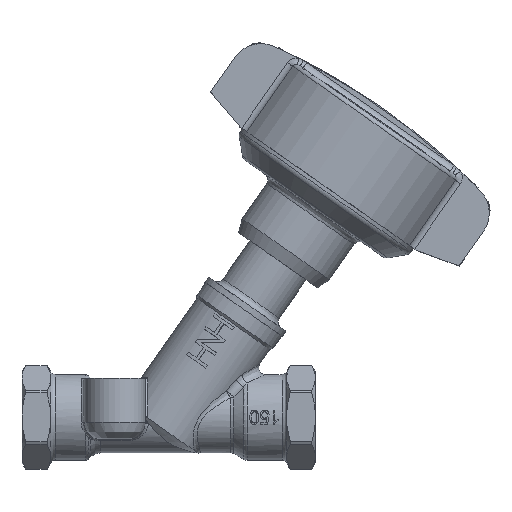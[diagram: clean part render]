
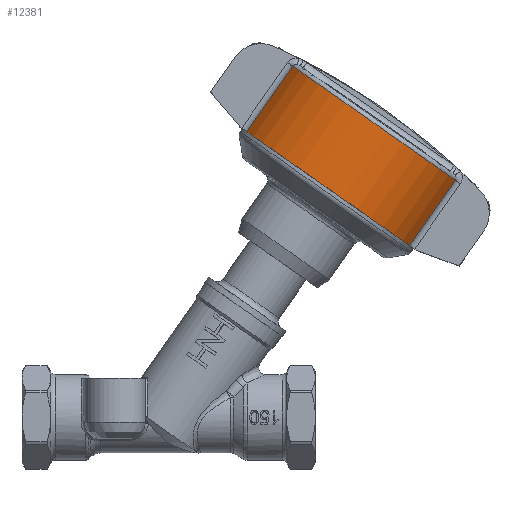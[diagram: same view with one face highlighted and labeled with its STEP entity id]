
A CAD part, top view. The second image highlights one B-rep face of the part: STEP entity #12381.
In plain terms, the highlighted cylindrical face has radius 31.925 mm (diameter 63.85 mm), a partial arc.
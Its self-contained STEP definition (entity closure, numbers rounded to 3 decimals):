
#11240=CARTESIAN_POINT('',(41.5,70.335,12.328));
#11241=VERTEX_POINT('',#11240);
#11249=CARTESIAN_POINT('',(27.906,50.921,12.328));
#11250=VERTEX_POINT('',#11249);
#11251=CARTESIAN_POINT('',(41.5,70.335,12.328));
#11252=DIRECTION('',(-0.574,-0.819,0.));
#11253=VECTOR('',#11252,23.7);
#11254=LINE('',#11251,#11253);
#11255=EDGE_CURVE('',#11241,#11250,#11254,.T.);
#11650=CARTESIAN_POINT('',(-6.746,104.118,12.328));
#11651=VERTEX_POINT('',#11650);
#11681=CARTESIAN_POINT('',(-20.34,84.704,12.328));
#11682=VERTEX_POINT('',#11681);
#11690=CARTESIAN_POINT('',(-20.34,84.704,12.328));
#11691=DIRECTION('',(0.574,0.819,0.0));
#11692=VECTOR('',#11691,23.7);
#11693=LINE('',#11690,#11692);
#11694=EDGE_CURVE('',#11682,#11651,#11693,.T.);
#12354=CARTESIAN_POINT('',(17.377,87.226,0.0));
#12355=DIRECTION('',(-0.574,-0.819,0.0));
#12356=DIRECTION('',(0.819,-0.574,0.0));
#12357=AXIS2_PLACEMENT_3D('',#12354,#12355,#12356);
#12358=CIRCLE('',#12357,31.925);
#12359=EDGE_CURVE('',#11241,#11651,#12358,.T.);
#12364=CARTESIAN_POINT('',(10.58,77.519,0.0));
#12365=DIRECTION('',(-0.574,-0.819,0.0));
#12366=DIRECTION('',(0.819,-0.574,0.0));
#12367=AXIS2_PLACEMENT_3D('',#12364,#12365,#12366);
#12368=CYLINDRICAL_SURFACE('',#12367,31.925);
#12369=ORIENTED_EDGE('',*,*,#11255,.F.);
#12370=ORIENTED_EDGE('',*,*,#12359,.T.);
#12371=ORIENTED_EDGE('',*,*,#11694,.F.);
#12372=CARTESIAN_POINT('',(3.783,67.813,0.0));
#12373=DIRECTION('',(-0.574,-0.819,0.0));
#12374=DIRECTION('',(0.819,-0.574,0.0));
#12375=AXIS2_PLACEMENT_3D('',#12372,#12373,#12374);
#12376=CIRCLE('',#12375,31.925);
#12377=EDGE_CURVE('',#11250,#11682,#12376,.T.);
#12378=ORIENTED_EDGE('',*,*,#12377,.F.);
#12379=EDGE_LOOP('',(#12369,#12370,#12371,#12378));
#12380=FACE_OUTER_BOUND('',#12379,.T.);
#12381=ADVANCED_FACE('',(#12380),#12368,.T.);
